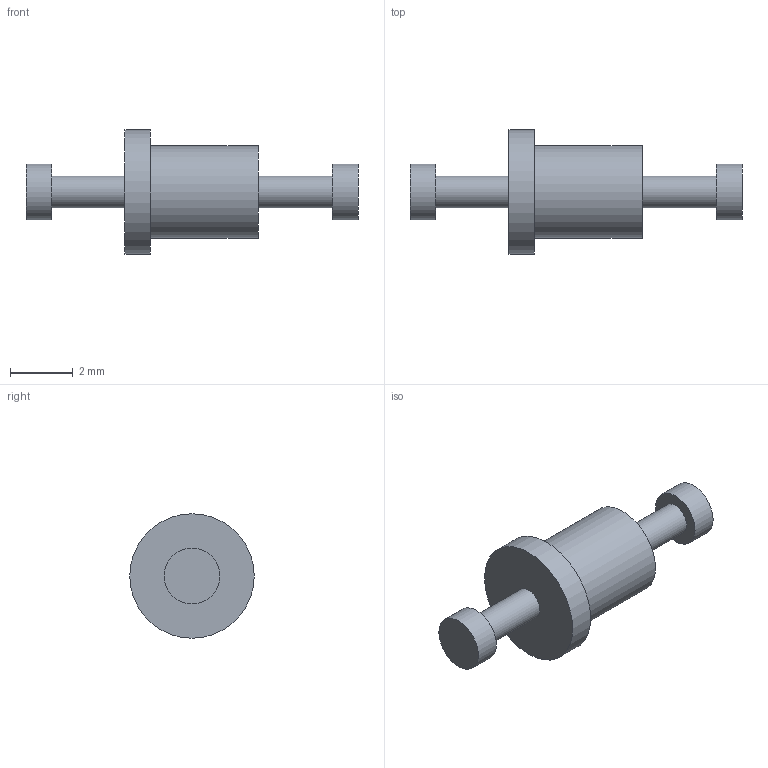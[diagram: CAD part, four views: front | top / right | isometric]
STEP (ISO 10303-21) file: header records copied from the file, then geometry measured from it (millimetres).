
FILE_DESCRIPTION(/* description */ (''),/* implementation_level */ '2;1');
FILE_NAME(/* name */ 'Z:\STEP folder\160-1464-03.ipt.stp',/* time_stamp */ '2016-12-07T10:47:12+00:00',/* author */ ('Paul Karlsons'),/* organization */ (''),/* preprocessor_version */ 'ST-DEVELOPER v15.2',/* originating_system */ 'Autodesk Inventor 2014',/* authorisation */ '');
FILE_SCHEMA (('AUTOMOTIVE_DESIGN { 1 0 10303 214 3 1 1 }'));
Length unit declared in the file: millimetre
Products named in the file (1): 160-1464-03
Bounding box: 10.56 x 3.96 x 3.96 mm (x, y, z)
Volume: 38.8 mm3; surface area: 101.9 mm2
Topology: 1 solids, 1 shells, 14 faces, 20 edges, 13 vertices
Faces by surface type: plane 7, cylinder 6, cone 1
Full cylindrical faces by diameter (mm): 1.016 x2, 1.778 x2, 2.94 x1, 3.96 x1
Entity records: 295 total; most frequent: DIRECTION 56, CARTESIAN_POINT 41, AXIS2_PLACEMENT_3D 28, EDGE_LOOP 26, ORIENTED_EDGE 26, FACE_BOUND 15, ADVANCED_FACE 14, CIRCLE 13
